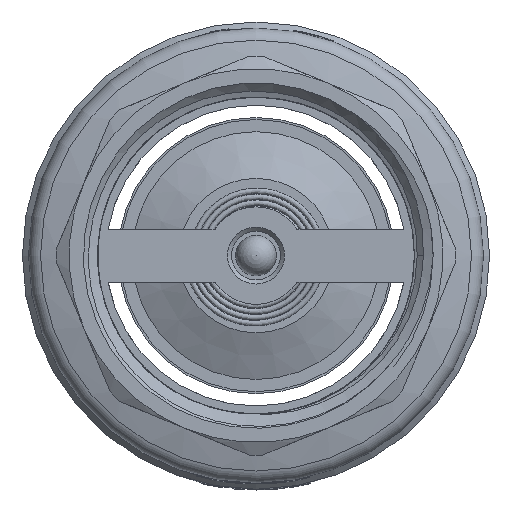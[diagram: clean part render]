
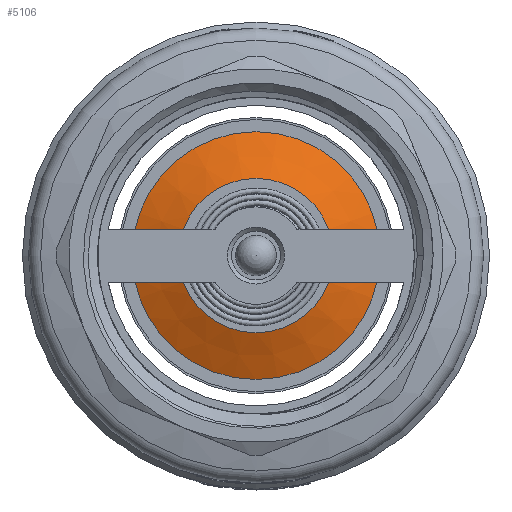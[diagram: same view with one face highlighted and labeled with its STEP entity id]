
A CAD part, left-side view. The second image highlights one B-rep face of the part: STEP entity #5106.
In plain terms, the highlighted conical face has half-angle 67.345 degrees and reference radius 12.375 mm.
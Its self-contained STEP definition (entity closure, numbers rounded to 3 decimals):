
#345=CONICAL_SURFACE('',#5623,12.375,1.175);
#611=FACE_OUTER_BOUND('',#929,.T.);
#929=EDGE_LOOP('',(#4658,#4659,#4660,#4661,#4662,#4663));
#1159=CIRCLE('',#5619,15.25);
#1162=CIRCLE('',#5622,15.25);
#1163=CIRCLE('',#5624,9.5);
#1164=CIRCLE('',#5625,9.5);
#1625=LINE('',#14046,#1943);
#1943=VECTOR('',#6944,12.375);
#2427=VERTEX_POINT('',#14035);
#2428=VERTEX_POINT('',#14036);
#2431=VERTEX_POINT('',#14045);
#2432=VERTEX_POINT('',#14047);
#3179=EDGE_CURVE('',#2427,#2428,#1159,.T.);
#3183=EDGE_CURVE('',#2428,#2427,#1162,.T.);
#3184=EDGE_CURVE('',#2428,#2431,#1625,.T.);
#3185=EDGE_CURVE('',#2431,#2432,#1163,.T.);
#3186=EDGE_CURVE('',#2432,#2431,#1164,.T.);
#4658=ORIENTED_EDGE('',*,*,#3179,.F.);
#4659=ORIENTED_EDGE('',*,*,#3183,.F.);
#4660=ORIENTED_EDGE('',*,*,#3184,.T.);
#4661=ORIENTED_EDGE('',*,*,#3185,.T.);
#4662=ORIENTED_EDGE('',*,*,#3186,.T.);
#4663=ORIENTED_EDGE('',*,*,#3184,.F.);
#5106=ADVANCED_FACE('',(#611),#345,.T.);
#5619=AXIS2_PLACEMENT_3D('',#14037,#6933,#6934);
#5622=AXIS2_PLACEMENT_3D('',#14043,#6940,#6941);
#5623=AXIS2_PLACEMENT_3D('',#14044,#6942,#6943);
#5624=AXIS2_PLACEMENT_3D('',#14048,#6945,#6946);
#5625=AXIS2_PLACEMENT_3D('',#14049,#6947,#6948);
#6933=DIRECTION('center_axis',(1.,0.,0.));
#6934=DIRECTION('ref_axis',(0.,0.,-1.));
#6940=DIRECTION('center_axis',(1.,0.,0.));
#6941=DIRECTION('ref_axis',(0.,0.,-1.));
#6942=DIRECTION('center_axis',(1.,0.,0.));
#6943=DIRECTION('ref_axis',(0.,1.,0.));
#6944=DIRECTION('',(-0.385,0.923,0.));
#6945=DIRECTION('center_axis',(1.,0.,0.));
#6946=DIRECTION('ref_axis',(0.,0.,-1.));
#6947=DIRECTION('center_axis',(1.,0.,0.));
#6948=DIRECTION('ref_axis',(0.,0.,-1.));
#14035=CARTESIAN_POINT('',(2.2,15.25,0.));
#14036=CARTESIAN_POINT('',(2.2,-15.25,0.));
#14037=CARTESIAN_POINT('Origin',(2.2,0.,0.));
#14043=CARTESIAN_POINT('Origin',(2.2,0.,0.));
#14044=CARTESIAN_POINT('Origin',(1.,0.,0.));
#14045=CARTESIAN_POINT('',(-0.2,-9.5,0.));
#14046=CARTESIAN_POINT('',(1.,-12.375,0.));
#14047=CARTESIAN_POINT('',(-0.2,9.5,0.));
#14048=CARTESIAN_POINT('Origin',(-0.2,0.,0.));
#14049=CARTESIAN_POINT('Origin',(-0.2,0.,0.));
